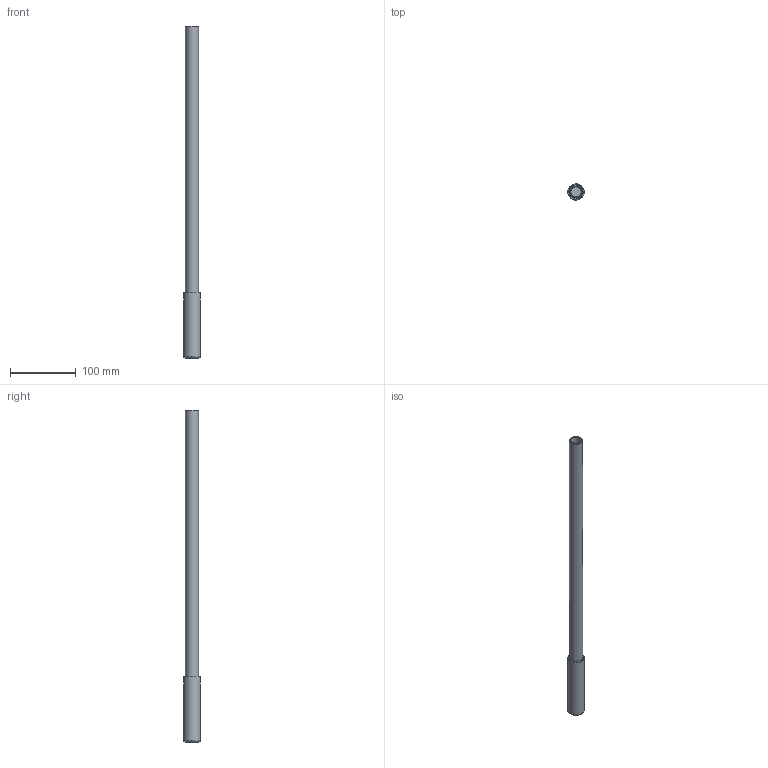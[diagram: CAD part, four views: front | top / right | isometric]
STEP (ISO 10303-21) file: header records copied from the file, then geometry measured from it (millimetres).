
FILE_DESCRIPTION(/* description */ ('Unknown'),/* implementation_level */ '2;1');
FILE_NAME(/* name */ 'LV20X500',/* time_stamp */ '2024-11-27T16:33:25+01:00',/* author */ ('Unknown'),/* organization */ ('Unknown'),/* preprocessor_version */ 'ST-DEVELOPER v19.4',/* originating_system */ 'Solid Edge',/* authorisation */ 'Unknown');
FILE_SCHEMA (('AUTOMOTIVE_DESIGN {1 0 10303 214 3 1 1}'));
Length unit declared in the file: millimetre
Products named in the file (1): LV20X500
Bounding box: 24.97 x 24.97 x 505 mm (x, y, z)
Volume: 75679 mm3; surface area: 59273.9 mm2
Topology: 1 solids, 1 shells, 10 faces, 16 edges, 10 vertices
Faces by surface type: plane 4, cylinder 3, torus 2, cone 1
Full cylindrical faces by diameter (mm): 16 x1, 20 x1, 25 x1
Entity records: 224 total; most frequent: DIRECTION 40, CARTESIAN_POINT 29, AXIS2_PLACEMENT_3D 20, ORIENTED_EDGE 18, EDGE_LOOP 18, FACE_BOUND 18, ADVANCED_FACE 10, EDGE_CURVE 9
